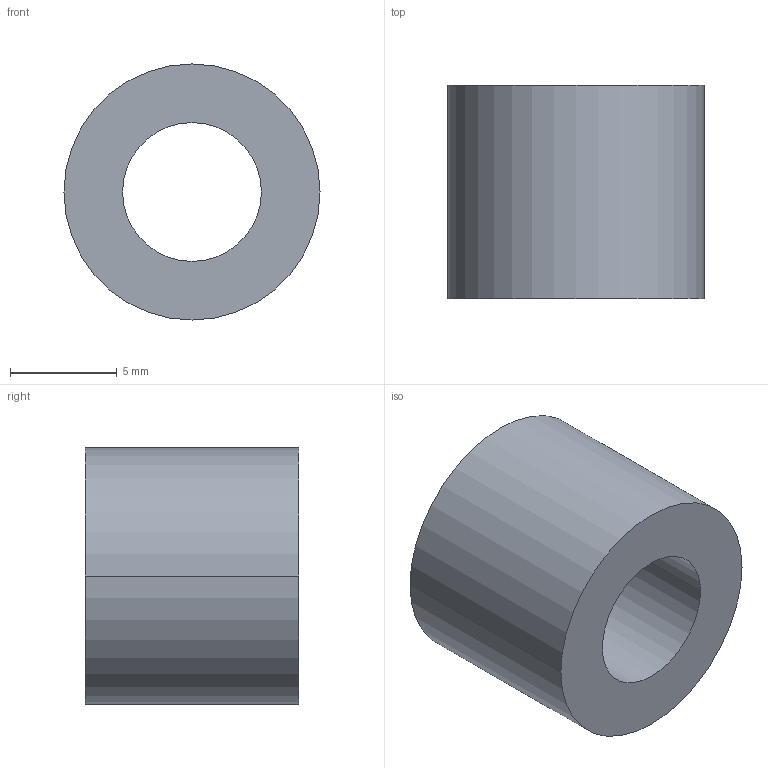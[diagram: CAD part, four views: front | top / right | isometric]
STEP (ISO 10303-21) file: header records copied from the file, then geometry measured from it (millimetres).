
FILE_DESCRIPTION (( 'STEP AP203' ), '1' );
FILE_NAME ('30800.WPP12D6.5.step', '2019-01-23T22:25:37', ( '' ), ( '' ), 'SwSTEP 2.0', 'SolidWorks 2017', '' );
FILE_SCHEMA (( 'CONFIG_CONTROL_DESIGN' ));
Length unit declared in the file: millimetre
Products named in the file (1): 30800.WPP12D6.5
Bounding box: 12 x 10 x 12 mm (x, y, z)
Volume: 788.3 mm3; surface area: 728.9 mm2
Topology: 1 solids, 1 shells, 8 faces, 16 edges, 10 vertices
Faces by surface type: cylinder 4, torus 2, plane 2
Entity records: 297 total; most frequent: DIRECTION 46, CARTESIAN_POINT 35, ORIENTED_EDGE 32, AXIS2_PLACEMENT_3D 21, EDGE_CURVE 16, CIRCLE 12, VERTEX_POINT 10, EDGE_LOOP 10
